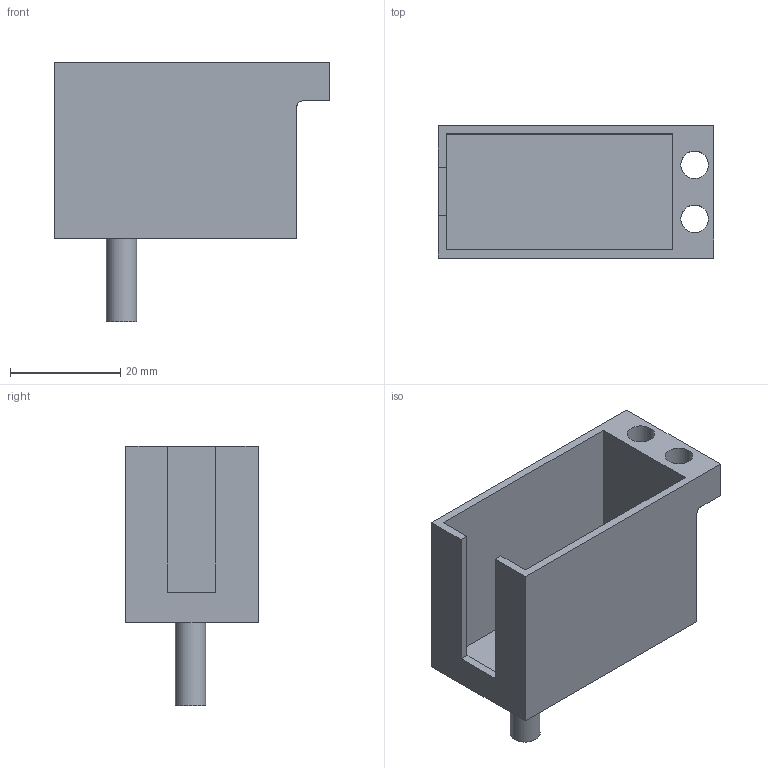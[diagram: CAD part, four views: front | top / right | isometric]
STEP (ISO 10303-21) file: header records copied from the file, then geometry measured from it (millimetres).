
FILE_DESCRIPTION(/* description */ ('STEP AP242 Edition 2','CAx-IF Rec.Pracs.---Representation and Presentation of Product Manufacturing Information (PMI)---4.0---2014-10-13','CAx-IF Rec.Pracs.---3D Tessellated Geometry---0.4---2014-09-14','2;1','CAx-IF Rec.Pracs.---User Defined Attributes---1.5---2016-08-15'),/* implementation_level */ '2;1');
FILE_NAME(/* name */ 'Arm Parts - Shell1',/* time_stamp */ '2026-04-22T00:04:14Z',/* author */ (''),/* organization */ (''),/* preprocessor_version */ 'ST-DEVELOPER v20',/* originating_system */ 'ONSHAPE BY PTC INC, 1.213',/* authorisation */ ' ');
FILE_SCHEMA (('AP242_MANAGED_MODEL_BASED_3D_ENGINEERING_MIM_LF { 1 0 10303 442 3 1 4 }'));
Length unit declared in the file: metre
Products named in the file (1): Shell1
Bounding box: 50 x 24 x 47 mm (x, y, z)
Volume: 8280.3 mm3; surface area: 10630 mm2
Topology: 1 solids, 1 shells, 23 faces, 64 edges, 42 vertices
Faces by surface type: plane 17, cylinder 6
Full cylindrical faces by diameter (mm): 5 x2, 5.5 x1
Entity records: 735 total; most frequent: CARTESIAN_POINT 139, ORIENTED_EDGE 118, DIRECTION 111, EDGE_CURVE 59, LINE 47, VECTOR 47, VERTEX_POINT 40, AXIS2_PLACEMENT_3D 32
